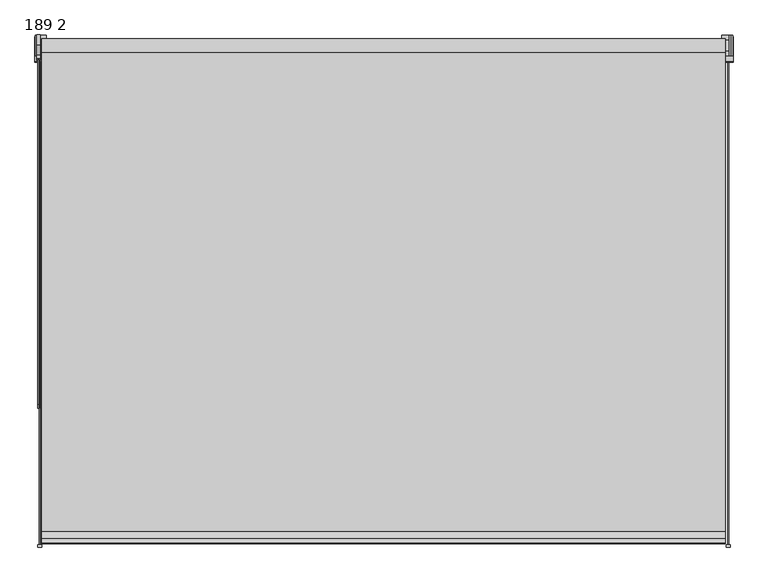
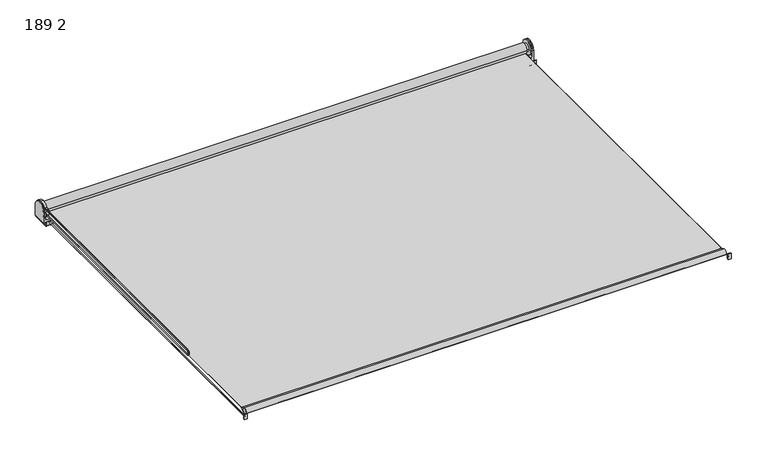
"""IFC4 building model written with IfcOpenShell, lengths in millimetres: proxy geometry, Bandalux_RollerShades_Premium_SingleDrop : 189 2."""

from ifc_helpers import new_model, si_unit, point, frame, frame_2d, origin, place, context, project, spatial, polyline, circle_curve, ellipse_curve, trimmed, segment, composite_curve, outline, extrude, source, transform, mapped, element, save
from ifc_brep_helpers import plane_surface, cylinder_surface, revolved_surface, advanced_brep


def proxy_189_2_4748620c(model_context):
    return source(origin(), model_context, "Body", "SolidModel", [
        extrude(outline(composite_curve([segment(trimmed(circle_curve(frame_2d((13.8568685, 46.18904)), 29.0636887), [point((13.8568274, 75.2527288))], [point((13.8568685, 17.1253513))], False, "CARTESIAN"), True, "CONTINUOUS"), segment(trimmed(circle_curve(frame_2d((13.0459089, 46.1890395)), 29.075), [point((13.8568685, 17.1253513))], [point((-11.4388077, 30.5092985))], False, "CARTESIAN"), True, "CONTINUOUS"), segment(polyline([(-11.4388077, 30.5092985), (-22.8856924, 30.5092985)]), True, "CONTINUOUS"), segment(trimmed(circle_curve(frame_2d((13.0459089, 46.7342994)), 39.425), [point((-22.8856924, 30.5092985))], [point((-23.3206968, 61.9592991))], False, "CARTESIAN"), True, "CONTINUOUS"), segment(polyline([(-23.3206968, 61.9592991), (-11.380604, 61.9592991)]), True, "CONTINUOUS"), segment(trimmed(circle_curve(frame_2d((13.0459089, 46.1890395)), 29.075), [point((-11.380604, 61.9592991))], [point((13.8568274, 75.2527288))], False, "CARTESIAN"), True, "CONTINUOUS")], self_intersect=False)), frame((-955.8, 0.0, 0.0), z_axis=(1.0, 0.0, 0.0), x_axis=(0.0, 1.0, 0.0)), (0.0, 0.0, 1.0), 9.8),
        advanced_brep(
        [(-955.8, -14.2862631, 46.4), (-955.8, -14.2862631, 21.0), (-955.8, 42.0, 21.0), (-955.8, 42.0, 46.4), (-960.0, 42.0, 2.0), (-960.0, -14.2862631, 2.0), (-960.0, -14.2862631, 46.4), (-960.0, 41.9301797, 46.4), (-951.8, 42.0, 17.0), (-951.8, 42.0, 14.3676071), (-929.5, 42.0, 10.0329262), (-929.5, 42.0, 2.0), (-929.5, -14.2862631, 2.0), (-929.5, -14.2862631, 10.0329262), (-951.8, -14.2862631, 14.3676071), (-951.8, -14.2862631, 17.0)],
        [
            (0, 1),
            (1, 2),
            (2, 3),
            (3, 0, circle_curve(frame((-955.8, 13.8568685, 46.4), z_axis=(1.0, 0.0, 0.0), x_axis=(0.0, -1.0, 0.0)), 28.0733113)),
            (4, 5),
            (5, 6),
            (6, 7, circle_curve(frame((-960.0, 13.8568685, 46.4), z_axis=(-1.0, 0.0, 0.0), x_axis=(0.0, -1.0, 0.0)), 28.0733113)),
            (7, 4),
            (7, 3),
            (2, 8),
            (8, 9),
            (9, 10),
            (10, 11),
            (11, 4),
            (6, 0),
            (5, 12),
            (12, 13),
            (13, 14),
            (14, 15),
            (15, 1),
            (11, 12),
            (14, 9),
            (8, 15),
            (13, 10),
        ],
        [
            plane_surface(frame((-955.8, 42.0, 15.7573593), z_axis=(1.0, 0.0, 0.0), x_axis=(0.0, 0.0, -1.0))),
            plane_surface(frame((-960.0, 42.0, 15.7573593), z_axis=(-1.0, 0.0, 0.0), x_axis=(0.0, 0.0, 1.0))),
            plane_surface(frame((-960.0, 42.0, 2.0), z_axis=(0.0, 1.0, 0.0), x_axis=(1.0, 0.0, 0.0))),
            cylinder_surface(frame((-955.8, 13.8568685, 46.4), z_axis=(-1.0, 0.0, 0.0), x_axis=(0.0, -1.0, 0.0)), 28.0733113),
            plane_surface(frame((-960.0, -14.2862631, 46.4), z_axis=(0.0, -1.0, 0.0), x_axis=(1.0, 0.0, 0.0))),
            plane_surface(frame((-960.0, -14.2862631, 2.0), z_axis=(0.0, 0.0, -1.0), x_axis=(1.0, 0.0, 0.0))),
            plane_surface(frame((-951.8, -14.2862631, 17.0), z_axis=(1.0, 0.0, 0.0), x_axis=(0.0, 1.0, 0.0))),
            plane_surface(frame((-951.8, -14.2862631, 14.3676071), z_axis=(0.19080899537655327, 0.0, 0.9816271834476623), x_axis=(0.0, 1.0, 0.0))),
            plane_surface(frame((-929.5, -14.2862631, 10.0329262), z_axis=(1.0, 0.0, 0.0), x_axis=(0.0, 1.0, 0.0))),
            plane_surface(frame((-955.8, -14.2862631, 21.0), z_axis=(0.7071067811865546, 0.0, 0.7071067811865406), x_axis=(0.0, 1.0, 0.0))),
        ],
        [
            (0, [[1, 2, 3, 4]]),
            (1, [[5, 6, 7, 8]]),
            (2, [[9, -3, 10, 11, 12, 13, 14, -8]]),
            (3, [[-9, -7, 15, -4]]),
            (4, [[16, 17, 18, 19, 20, -1, -15, -6]]),
            (5, [[21, -16, -5, -14]]),
            (6, [[22, -11, 23, -19]]),
            (7, [[24, -12, -22, -18]]),
            (8, [[-21, -13, -24, -17]]),
            (9, [[-23, -10, -2, -20]]),
        ],
    ),
        advanced_brep(
        [(955.8, -14.2164428, 46.4), (955.8, 41.9301797, 46.4), (955.8, 42.0, 21.0), (955.8, -14.2862631, 21.0), (960.0, 42.0, 2.0), (960.0, 42.0, 46.4), (960.0, -14.2164428, 46.4), (960.0, -14.2862631, 2.0), (929.5, 42.0, 2.0), (929.5, 42.0, 10.0329262), (951.8, 42.0, 14.3676071), (951.8, 42.0, 17.0), (951.8, -14.2862631, 17.0), (951.8, -14.2862631, 14.3676071), (929.5, -14.2862631, 10.0329262), (929.5, -14.2862631, 2.0)],
        [
            (0, 1, circle_curve(frame((955.8, 13.8568685, 46.4), z_axis=(-1.0, 0.0, 0.0), x_axis=(0.0, -1.0, 0.0)), 28.0733113)),
            (1, 2),
            (2, 3),
            (3, 0),
            (4, 5),
            (5, 6, circle_curve(frame((960.0, 13.8568685, 46.4), z_axis=(1.0, 0.0, 0.0), x_axis=(0.0, -1.0, 0.0)), 28.0733113)),
            (6, 7),
            (7, 4),
            (4, 8),
            (8, 9),
            (9, 10),
            (10, 11),
            (11, 2),
            (1, 5),
            (0, 6),
            (3, 12),
            (12, 13),
            (13, 14),
            (14, 15),
            (15, 7),
            (15, 8),
            (12, 11),
            (10, 13),
            (9, 14),
        ],
        [
            plane_surface(frame((955.8, 42.0, 15.7573593), z_axis=(-1.0, 0.0, 0.0), x_axis=(0.0, 0.0, -1.0))),
            plane_surface(frame((960.0, 42.0, 15.7573593), z_axis=(1.0, 0.0, 0.0), x_axis=(0.0, 0.0, 1.0))),
            plane_surface(frame((960.0, 42.0, 2.0), z_axis=(0.0, 1.0, 0.0), x_axis=(-1.0, 0.0, 0.0))),
            cylinder_surface(frame((955.8, 13.8568685, 46.4), z_axis=(1.0, 0.0, 0.0), x_axis=(0.0, -1.0, 0.0)), 28.0733113),
            plane_surface(frame((960.0, -14.2862631, 46.4), z_axis=(0.0, -1.0, 0.0), x_axis=(-1.0, 0.0, 0.0))),
            plane_surface(frame((960.0, -14.2862631, 2.0), z_axis=(0.0, 0.0, -1.0), x_axis=(-1.0, 0.0, 0.0))),
            plane_surface(frame((951.8, -14.2862631, 17.0), z_axis=(-1.0, 0.0, 0.0), x_axis=(0.0, 1.0, 0.0))),
            plane_surface(frame((951.8, -14.2862631, 14.3676071), z_axis=(-0.19080899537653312, 0.0, 0.9816271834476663), x_axis=(0.0, 1.0, 0.0))),
            plane_surface(frame((929.5, -14.2862631, 10.0329262), z_axis=(-1.0, 0.0, 0.0), x_axis=(0.0, 1.0, 0.0))),
            plane_surface(frame((955.8, -14.2862631, 21.0), z_axis=(-0.7071067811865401, 0.0, 0.707106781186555), x_axis=(0.0, 1.0, 0.0))),
        ],
        [
            (0, [[1, 2, 3, 4]]),
            (1, [[5, 6, 7, 8]]),
            (2, [[-5, 9, 10, 11, 12, 13, -2, 14]]),
            (3, [[-1, 15, -6, -14]]),
            (4, [[-7, -15, -4, 16, 17, 18, 19, 20]]),
            (5, [[-9, -8, -20, 21]]),
            (6, [[-17, 22, -12, 23]]),
            (7, [[-18, -23, -11, 24]]),
            (8, [[-19, -24, -10, -21]]),
            (9, [[-16, -3, -13, -22]]),
        ],
    ),
        extrude(outline(composite_curve([segment(trimmed(circle_curve(frame_2d((13.8568685, 46.4)), 28.0733113), [point((41.9301797, 46.4))], [point((-14.2164428, 46.4))], False, "CARTESIAN"), True, "CONTINUOUS"), segment(trimmed(circle_curve(frame_2d((13.8568685, 46.4)), 28.0733113), [point((-14.2164428, 46.4))], [point((41.9301797, 46.4))], False, "CARTESIAN"), True, "CONTINUOUS")], self_intersect=False)), frame((950.0, 0.0, 0.0), z_axis=(1.0, 0.0, 0.0), x_axis=(0.0, 1.0, 0.0)), (0.0, 0.0, 1.0), 5.8),
        extrude(outline(composite_curve([segment(trimmed(circle_curve(frame_2d((-1347.2, 27.58904)), 10.0), [point((-1357.2, 27.58904))], [point((-1337.2, 27.58904))], False, "CARTESIAN"), True, "CONTINUOUS"), segment(trimmed(circle_curve(frame_2d((-1347.2, 27.58904)), 10.0), [point((-1337.2, 27.58904))], [point((-1357.2, 27.58904))], False, "CARTESIAN"), True, "CONTINUOUS")], self_intersect=False)), frame((-942.0, 0.0, 0.0), z_axis=(1.0, 0.0, 0.0), x_axis=(0.0, 1.0, 0.0)), (0.0, 0.0, 1.0), 1881.0),
        advanced_brep(
        [(939.0, -1324.0848152, 27.58904), (939.0, -1342.1539547, 37.1377415), (939.0, -1342.1539603, 18.0403499), (939.0, -1325.7970491, 27.58904), (939.0, -1342.5277469, 18.7476571), (939.0, -1342.5277472, 36.430423), (-942.0, -1324.0848152, 27.58904), (-942.0, -1342.1539544, 18.0403387), (-942.0, -1342.1539606, 37.1377303), (-942.0, -1325.7970491, 27.58904), (-942.0, -1342.5277472, 36.430423), (-942.0, -1342.5277469, 18.7476571)],
        [
            (0, 1),
            (1, 2, circle_curve(frame((939.0, -1347.2, 27.58904), z_axis=(1.0, 0.0, 0.0), x_axis=(0.0, 1.0, 0.0)), 10.8)),
            (2, 0),
            (3, 4),
            (4, 5, circle_curve(frame((939.0, -1347.2, 27.58904), z_axis=(-1.0, 0.0, 0.0), x_axis=(0.0, 1.0, 0.0)), 10.0)),
            (5, 3),
            (6, 7),
            (7, 8, circle_curve(frame((-942.0, -1347.2, 27.58904), z_axis=(-1.0, 0.0, 0.0), x_axis=(0.0, 1.0, 0.0)), 10.8)),
            (8, 6),
            (9, 10),
            (10, 11, circle_curve(frame((-942.0, -1347.2, 27.58904), z_axis=(1.0, 0.0, 0.0), x_axis=(0.0, 1.0, 0.0)), 10.0)),
            (11, 9),
            (3, 9),
            (11, 4),
            (10, 5),
            (0, 6),
            (8, 1),
            (7, 2),
        ],
        [
            plane_surface(frame((939.0, -1325.7970491, 27.58904), z_axis=(1.0000000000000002, 0.0, 0.0), x_axis=(0.0, -0.8841382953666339, -0.4672252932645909))),
            plane_surface(frame((-942.0, -1325.7970491, 27.58904), z_axis=(-1.0000000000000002, 0.0, 0.0), x_axis=(0.0, 0.8841382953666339, 0.4672252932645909))),
            plane_surface(frame((939.0, -1325.7970491, 27.58904), z_axis=(0.0, -0.4672252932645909, 0.8841382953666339), x_axis=(-1.0, 0.0, 0.0))),
            revolved_surface(polyline([(-942.0, -1337.2, 27.58904), (939.0, -1337.2, 27.58904)]), (-942.0, -1347.2, 27.58904), (-1.0, 0.0, 0.0)),
            plane_surface(frame((939.0, -1342.5277472, 36.430423), z_axis=(0.0, -0.46722529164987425, -0.8841382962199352), x_axis=(-1.0, 0.0, 0.0))),
            plane_surface(frame((939.0, -1324.0848152, 27.58904), z_axis=(0.0, 0.4672258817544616, 0.8841379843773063), x_axis=(-1.0, 0.0, 0.0))),
            cylinder_surface(frame((-6.2063213, -1347.2, 27.58904), z_axis=(1.0, 0.0, 0.0), x_axis=(0.0, 1.0, 0.0)), 10.8),
            plane_surface(frame((939.0, -1342.1539544, 18.0403387), z_axis=(0.0, 0.4672258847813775, -0.8841379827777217), x_axis=(-1.0, 0.0, 0.0))),
        ],
        [
            (0, [[1, 2, 3], [4, 5, 6]]),
            (1, [[7, 8, 9], [10, 11, 12]]),
            (2, [[-4, 13, -12, 14]]),
            (3, [[-5, -14, -11, 15]]),
            (4, [[-6, -15, -10, -13]]),
            (5, [[-1, 16, -9, 17]]),
            (6, [[-2, -17, -8, 18]]),
            (7, [[-3, -18, -7, -16]]),
        ],
    ),
        extrude(outline(composite_curve([segment(polyline([(-32.5088831, 2.9998134), (-32.5088831, 16.9999987), (-30.509218, 16.9999987), (-30.509218, 1.9998883), (38.4911174, 1.9998883), (38.4911174, -3e-07), (-29.5090693, -3e-07)]), True, "CONTINUOUS"), segment(trimmed(circle_curve(frame_2d((-29.5090693, 2.9998134)), 2.9998137), [point((-29.5090693, -3e-07))], [point((-32.5088831, 2.9998134))], False, "CARTESIAN"), True, "CONTINUOUS")], self_intersect=False)), frame((935.0, 0.0, 0.0), z_axis=(1.0, 0.0, 0.0), x_axis=(0.0, 1.0, 0.0)), (0.0, 0.0, 1.0), 26.0),
        extrude(outline(polyline([(-1361.000001, 7.6875), (-1367.000001, 5.8875), (-1367.000001, 27.8875), (-1361.000001, 26.0875), (-1361.000001, 7.6875)])), frame((942.25, 0.0, 0.0), z_axis=(1.0, 0.0, 0.0), x_axis=(0.0, 1.0, 0.0)), (0.0, 0.0, 1.0), 11.5),
        extrude(outline(composite_curve([segment(trimmed(circle_curve(frame_2d((14.65625, 948.0)), 1.6), [point((14.65625, 949.6))], [point((14.65625, 946.4))], False, "CARTESIAN"), True, "CONTINUOUS"), segment(trimmed(circle_curve(frame_2d((14.65625, 948.0)), 1.6), [point((14.65625, 946.4))], [point((14.65625, 949.6))], False, "CARTESIAN"), True, "CONTINUOUS")], self_intersect=False)), frame((0.0, -1361.000001, 0.0), z_axis=(0.0, 1.0, 0.0), x_axis=(0.0, 0.0, 1.0)), (0.0, 0.0, 1.0), 1328.5),
        extrude(outline(composite_curve([segment(polyline([(-32.5088831, 2.9998134), (-32.5088831, 16.9999987), (-30.509218, 16.9999987), (-30.509218, 1.9998883), (38.4911174, 1.9998883), (38.4911174, -3e-07), (-29.5090693, -3e-07)]), True, "CONTINUOUS"), segment(trimmed(circle_curve(frame_2d((-29.5090693, 2.9998134)), 2.9998137), [point((-29.5090693, -3e-07))], [point((-32.5088831, 2.9998134))], False, "CARTESIAN"), True, "CONTINUOUS")], self_intersect=False)), frame((-961.0, 0.0, 0.0), z_axis=(1.0, 0.0, 0.0), x_axis=(0.0, 1.0, 0.0)), (0.0, 0.0, 1.0), 26.0),
        extrude(outline(polyline([(-1361.000001, 7.6875), (-1367.000001, 5.8875), (-1367.000001, 27.8875), (-1361.000001, 26.0875), (-1361.000001, 7.6875)])), frame((-953.75, 0.0, 0.0), z_axis=(1.0, 0.0, 0.0), x_axis=(0.0, 1.0, 0.0)), (0.0, 0.0, 1.0), 11.5),
        extrude(outline(composite_curve([segment(trimmed(circle_curve(frame_2d((14.65625, -948.0)), 1.6), [point((14.65625, -949.6))], [point((14.65625, -946.4))], False, "CARTESIAN"), True, "CONTINUOUS"), segment(trimmed(circle_curve(frame_2d((14.65625, -948.0)), 1.6), [point((14.65625, -946.4))], [point((14.65625, -949.6))], False, "CARTESIAN"), True, "CONTINUOUS")], self_intersect=False)), frame((0.0, -1361.000001, 0.0), z_axis=(0.0, 1.0, 0.0), x_axis=(0.0, 0.0, 1.0)), (0.0, 0.0, 1.0), 1328.5),
        advanced_brep(
        [(-951.0, 5.2137369, 59.0), (-951.0, 5.2137369, 55.0), (-951.0, -973.2862631, 55.0), (-951.0, -973.2862631, 59.0), (-951.0, 5.2137369, 35.0), (-951.0, 5.2137369, 39.0), (-951.0, -973.2862631, 39.0), (-951.0, -973.2862631, 35.0)],
        [
            (0, 1, circle_curve(frame((-951.0, 5.2137369, 57.0), z_axis=(0.0, 1.0, 0.0), x_axis=(0.0, 0.0, -1.0)), 2.0)),
            (1, 0, circle_curve(frame((-951.0, 5.2137369, 57.0), z_axis=(0.0, 1.0, 0.0), x_axis=(0.0, 0.0, -1.0)), 2.0)),
            (1, 2),
            (2, 3, circle_curve(frame((-951.0, -973.2862631, 57.0), z_axis=(0.0, 1.0, 0.0), x_axis=(0.0, 0.0, -1.0)), 2.0)),
            (3, 0),
            (3, 2, circle_curve(frame((-951.0, -973.2862631, 57.0), z_axis=(0.0, 1.0, 0.0), x_axis=(0.0, 0.0, -1.0)), 2.0)),
            (4, 5, circle_curve(frame((-951.0, 5.2137369, 37.0), z_axis=(0.0, 1.0, 0.0), x_axis=(0.0, 0.0, 1.0)), 2.0)),
            (5, 4, circle_curve(frame((-951.0, 5.2137369, 37.0), z_axis=(0.0, 1.0, 0.0), x_axis=(0.0, 0.0, 1.0)), 2.0)),
            (6, 5),
            (4, 7),
            (7, 6, circle_curve(frame((-951.0, -973.2862631, 37.0), z_axis=(0.0, 1.0, 0.0), x_axis=(0.0, 0.0, 1.0)), 2.0)),
            (6, 7, circle_curve(frame((-951.0, -973.2862631, 37.0), z_axis=(0.0, 1.0, 0.0), x_axis=(0.0, 0.0, 1.0)), 2.0)),
            (7, 3, circle_curve(frame((-951.0, -973.2862631, 47.0), z_axis=(-1.0, 0.0, 0.0), x_axis=(0.0, 0.0, 1.0)), 12.0)),
            (2, 6, circle_curve(frame((-951.0, -973.2862631, 47.0), z_axis=(1.0, 0.0, 0.0), x_axis=(0.0, 0.0, 1.0)), 8.0)),
        ],
        [
            plane_surface(frame((-948.0, 5.2137369, 57.0), z_axis=(0.0, 1.0, 0.0), x_axis=(-1.0, 0.0, 0.0))),
            cylinder_surface(frame((-951.0, 5.2137369, 57.0), z_axis=(0.0, 1.0, 0.0), x_axis=(0.0, 0.0, -1.0)), 2.0),
            plane_surface(frame((-948.0, 5.2137369, 37.0), z_axis=(0.0, 1.0, 0.0), x_axis=(-1.0, 0.0, 0.0))),
            cylinder_surface(frame((-951.0, -973.2862631, 37.0), z_axis=(0.0, -1.0, 0.0), x_axis=(0.0, 0.0, 1.0)), 2.0),
            revolved_surface(trimmed(ellipse_curve(frame((-951.0, -973.2862631, 57.0), z_axis=(0.0, -1.0, 0.0), x_axis=(0.0, 0.0, -1.0)), 2.0, 2.0), [point((-951.0, -973.2862631, 59.0))], [point((-951.0, -973.2862631, 55.0))], True, "CARTESIAN"), (-948.0, -973.2862631, 47.0), (-1.0, 0.0, 0.0)),
            revolved_surface(trimmed(ellipse_curve(frame((-951.0, -973.2862631, 57.0), z_axis=(0.0, -1.0, 0.0), x_axis=(0.0, 0.0, -1.0)), 2.0, 2.0), [point((-951.0, -973.2862631, 55.0))], [point((-951.0, -973.2862631, 59.0))], True, "CARTESIAN"), (-948.0, -973.2862631, 47.0), (-1.0, 0.0, 0.0)),
        ],
        [
            (0, [[1, 2]]),
            (1, [[3, 4, 5, -2]]),
            (1, [[-5, 6, -3, -1]]),
            (2, [[7, 8]]),
            (3, [[9, -7, 10, 11]]),
            (3, [[-10, -8, -9, 12]]),
            (4, [[-11, 13, -4, 14]]),
            (5, [[-12, -14, -6, -13]]),
        ],
    ),
        extrude(outline(composite_curve([segment(trimmed(circle_curve(frame_2d((13.8568685, 46.18904)), 19.0), [point((-5.1431315, 46.18904))], [point((32.8568685, 46.18904))], False, "CARTESIAN"), True, "CONTINUOUS"), segment(trimmed(circle_curve(frame_2d((13.8568685, 46.18904)), 19.0), [point((32.8568685, 46.18904))], [point((13.8568685, 27.18904))], False, "CARTESIAN"), True, "CONTINUOUS"), segment(polyline([(13.8568685, 27.18904), (-1324.1, 27.18904), (-1324.1, 27.98904), (8.4015958, 27.98904)]), True, "CONTINUOUS"), segment(trimmed(circle_curve(frame_2d((13.8568685, 46.18904)), 19.0), [point((8.4015958, 27.98904))], [point((-5.1431315, 46.18904))], False, "CARTESIAN"), True, "CONTINUOUS")], self_intersect=False)), frame((-942.0, 0.0, 0.0), z_axis=(1.0, 0.0, 0.0), x_axis=(0.0, 1.0, 0.0)), (0.0, 0.0, 1.0), 1881.0),
        extrude(outline(composite_curve([segment(trimmed(circle_curve(frame_2d((13.8568685, 46.18904)), 15.0), [point((-1.1431315, 46.18904))], [point((28.8568685, 46.18904))], False, "CARTESIAN"), True, "CONTINUOUS"), segment(trimmed(circle_curve(frame_2d((13.8568685, 46.18904)), 15.0), [point((28.8568685, 46.18904))], [point((-1.1431315, 46.18904))], False, "CARTESIAN"), True, "CONTINUOUS")], self_intersect=False)), frame((939.0, 0.0, 0.0), z_axis=(1.0, 0.0, 0.0), x_axis=(0.0, 1.0, 0.0)), (0.0, 0.0, 1.0), 11.0),
        extrude(outline(composite_curve([segment(trimmed(circle_curve(frame_2d((13.8568685, 46.18904)), 15.0), [point((-1.1431315, 46.18904))], [point((28.8568685, 46.18904))], False, "CARTESIAN"), True, "CONTINUOUS"), segment(trimmed(circle_curve(frame_2d((13.8568685, 46.18904)), 15.0), [point((28.8568685, 46.18904))], [point((-1.1431315, 46.18904))], False, "CARTESIAN"), True, "CONTINUOUS")], self_intersect=False)), frame((-946.0, 0.0, 0.0), z_axis=(1.0, 0.0, 0.0), x_axis=(0.0, 1.0, 0.0)), (0.0, 0.0, 1.0), 4.0),
    ])


if __name__ == "__main__":
    model = new_model("IFC4")
    model_context = context("Model", 3, world=origin())
    ifc_project = project(units=[si_unit("LENGTHUNIT", "METRE", prefix="MILLI")], contexts=[model_context])
    site = spatial("IfcSite", under=ifc_project)
    building = spatial("IfcBuilding", under=site)
    placement = place(None, origin())
    proxy_189_2_shape = proxy_189_2_4748620c(model_context)
    element("IfcBuildingElementProxy", 1, Name="Bandalux_RollerShades_Premium_SingleDrop : 189 2", ObjectType="Bandalux_RollerShades_Premium_SingleDrop : 189 2", at=placement, inside=building, context=model_context, shape_type="MappedRepresentation", body=[
        mapped(proxy_189_2_shape, transform((0.0, 0.0, 0.0), x_axis=(1.0, 0.0, 0.0), y_axis=(0.0, 1.0, 0.0), z_axis=(0.0, 0.0, 1.0))),
    ])
    save(model, "model.ifc")
